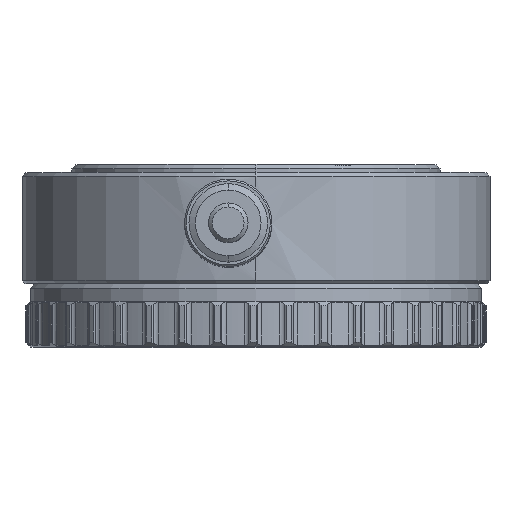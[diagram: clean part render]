
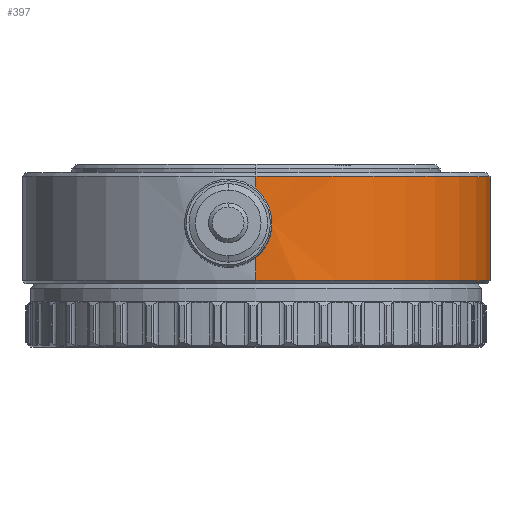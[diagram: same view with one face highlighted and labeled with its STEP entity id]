
A CAD part, top view. The second image highlights one B-rep face of the part: STEP entity #397.
In plain terms, the highlighted cylindrical face has radius 29.5 mm (diameter 59 mm), a partial arc.
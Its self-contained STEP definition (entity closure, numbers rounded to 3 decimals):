
#397=ADVANCED_FACE('',(#1130),#1131,.T.);
#1130=FACE_OUTER_BOUND('',#1899,.T.);
#1131=CYLINDRICAL_SURFACE('',#1900,29.5);
#1899=EDGE_LOOP('',(#4978,#4979,#4980,#4981,#4982,#4983,#4984,#4985));
#1900=AXIS2_PLACEMENT_3D('',#4986,#4987,#4988);
#4978=ORIENTED_EDGE('',*,*,#5189,.T.);
#4979=ORIENTED_EDGE('',*,*,#6139,.T.);
#4980=ORIENTED_EDGE('',*,*,#5199,.T.);
#4981=ORIENTED_EDGE('',*,*,#5643,.F.);
#4982=ORIENTED_EDGE('',*,*,#5197,.T.);
#4983=ORIENTED_EDGE('',*,*,#6155,.T.);
#4984=ORIENTED_EDGE('',*,*,#5191,.T.);
#4985=ORIENTED_EDGE('',*,*,#5644,.T.);
#4986=CARTESIAN_POINT('',(0.0,-0.562,0.0));
#4987=DIRECTION('',(0.0,1.0,0.0));
#4988=DIRECTION('',(0.0,0.0,-1.0));
#5189=EDGE_CURVE('',#6361,#6362,#6363,.T.);
#5191=EDGE_CURVE('',#6366,#6364,#6367,.T.);
#5197=EDGE_CURVE('',#6378,#6376,#6379,.T.);
#5199=EDGE_CURVE('',#6382,#6380,#6383,.T.);
#5643=EDGE_CURVE('',#6378,#6380,#7223,.T.);
#5644=EDGE_CURVE('',#6364,#6361,#7224,.T.);
#6139=EDGE_CURVE('',#6362,#6382,#7945,.T.);
#6155=EDGE_CURVE('',#6376,#6366,#7961,.T.);
#6361=VERTEX_POINT('',#8099);
#6362=VERTEX_POINT('',#8100);
#6363=LINE('',#8101,#8102);
#6364=VERTEX_POINT('',#8103);
#6366=VERTEX_POINT('',#8105);
#6367=LINE('',#8106,#8107);
#6376=VERTEX_POINT('',#8202);
#6378=VERTEX_POINT('',#8246);
#6379=LINE('',#8247,#8248);
#6380=VERTEX_POINT('',#8249);
#6382=VERTEX_POINT('',#8251);
#6383=LINE('',#8252,#8253);
#7223=CIRCLE('',#11086,29.5);
#7224=CIRCLE('',#11087,29.5);
#7945=B_SPLINE_CURVE_WITH_KNOTS('',3,(#13472,#13473,#13474,#13475,#13476,#13477,#13478,#13479,#13480,#13481,#13482,#13483,#13484,#13485,#13486,#13487,#13488,#13489,#13490,#13491,#13492,#13493,#13494,#13495,#13496,#13497,#13498,#13499,#13500,#13501,#13502,#13503,#13504,#13505,#13506,#13507,#13508,#13509,#13510),.UNSPECIFIED.,.F.,.F.,(4,2,2,2,2,2,2,2,2,3,2,2,2,2,2,2,2,2,4),(-6.8,-6.035,-5.28,-4.525,-3.77,-3.014,-2.261,-1.507,-0.754,0.0,0.754,1.507,2.261,3.014,3.77,4.525,5.28,6.035,6.8),.UNSPECIFIED.);
#7961=B_SPLINE_CURVE_WITH_KNOTS('',3,(#13526,#13527,#13528,#13529,#13530,#13531,#13532,#13533,#13534,#13535,#13536,#13537,#13538,#13539,#13540,#13541,#13542,#13543,#13544,#13545,#13546,#13547,#13548,#13549,#13550,#13551,#13552,#13553,#13554,#13555,#13556,#13557,#13558,#13559,#13560,#13561,#13562,#13563,#13564,#13565,#13566,#13567,#13568),.UNSPECIFIED.,.F.,.F.,(4,2,2,2,2,2,2,2,2,2,3,2,2,2,2,2,2,2,2,2,4),(-10.409,-9.354,-8.298,-7.261,-6.223,-5.186,-4.149,-3.112,-2.074,-1.037,0.0,1.037,2.074,3.112,4.149,5.186,6.223,7.261,8.298,9.354,10.409),.UNSPECIFIED.);
#8099=CARTESIAN_POINT('',(0.0,-7.125,-29.5));
#8100=CARTESIAN_POINT('',(0.,-1.936,-29.5));
#8101=CARTESIAN_POINT('',(0.,-0.562,-29.5));
#8102=VECTOR('',#13728,1.0);
#8103=CARTESIAN_POINT('',(0.,-7.125,29.5));
#8105=CARTESIAN_POINT('',(0.,-4.243,29.5));
#8106=CARTESIAN_POINT('',(0.,-0.562,29.5));
#8107=VECTOR('',#13732,1.0);
#8202=CARTESIAN_POINT('',(0.,4.243,29.5));
#8246=CARTESIAN_POINT('',(0.,6.,29.5));
#8247=CARTESIAN_POINT('',(0.,-0.562,29.5));
#8248=VECTOR('',#13733,1.0);
#8249=CARTESIAN_POINT('',(0.0,6.,-29.5));
#8251=CARTESIAN_POINT('',(0.,1.936,-29.5));
#8252=CARTESIAN_POINT('',(0.,-0.562,-29.5));
#8253=VECTOR('',#13737,1.0);
#11086=AXIS2_PLACEMENT_3D('',#14252,#14253,#14254);
#11087=AXIS2_PLACEMENT_3D('',#14255,#14256,#14257);
#13472=CARTESIAN_POINT('',(-4.274,-3.924,-29.189));
#13473=CARTESIAN_POINT('',(-4.015,-3.976,-29.227));
#13474=CARTESIAN_POINT('',(-3.753,-4.,-29.261));
#13475=CARTESIAN_POINT('',(-3.25,-4.,-29.322));
#13476=CARTESIAN_POINT('',(-2.991,-3.976,-29.349));
#13477=CARTESIAN_POINT('',(-2.475,-3.875,-29.397));
#13478=CARTESIAN_POINT('',(-2.219,-3.799,-29.417));
#13479=CARTESIAN_POINT('',(-1.726,-3.595,-29.451));
#13480=CARTESIAN_POINT('',(-1.489,-3.468,-29.463));
#13481=CARTESIAN_POINT('',(-1.051,-3.174,-29.482));
#13482=CARTESIAN_POINT('',(-0.85,-3.007,-29.488));
#13483=CARTESIAN_POINT('',(-0.494,-2.651,-29.496));
#13484=CARTESIAN_POINT('',(-0.328,-2.451,-29.499));
#13485=CARTESIAN_POINT('',(-0.034,-2.014,-29.5));
#13486=CARTESIAN_POINT('',(0.093,-1.778,-29.5));
#13487=CARTESIAN_POINT('',(0.297,-1.285,-29.499));
#13488=CARTESIAN_POINT('',(0.375,-1.028,-29.498));
#13489=CARTESIAN_POINT('',(0.476,-0.511,-29.496));
#13490=CARTESIAN_POINT('',(0.5,-0.251,-29.496));
#13491=CARTESIAN_POINT('',(0.5,0.,-29.496));
#13492=CARTESIAN_POINT('',(0.5,0.251,-29.496));
#13493=CARTESIAN_POINT('',(0.476,0.511,-29.496));
#13494=CARTESIAN_POINT('',(0.375,1.028,-29.498));
#13495=CARTESIAN_POINT('',(0.297,1.285,-29.499));
#13496=CARTESIAN_POINT('',(0.093,1.778,-29.5));
#13497=CARTESIAN_POINT('',(-0.034,2.014,-29.5));
#13498=CARTESIAN_POINT('',(-0.328,2.451,-29.499));
#13499=CARTESIAN_POINT('',(-0.494,2.651,-29.496));
#13500=CARTESIAN_POINT('',(-0.85,3.007,-29.488));
#13501=CARTESIAN_POINT('',(-1.051,3.174,-29.482));
#13502=CARTESIAN_POINT('',(-1.489,3.468,-29.463));
#13503=CARTESIAN_POINT('',(-1.726,3.595,-29.451));
#13504=CARTESIAN_POINT('',(-2.219,3.799,-29.417));
#13505=CARTESIAN_POINT('',(-2.475,3.875,-29.397));
#13506=CARTESIAN_POINT('',(-2.991,3.976,-29.349));
#13507=CARTESIAN_POINT('',(-3.25,4.,-29.322));
#13508=CARTESIAN_POINT('',(-3.753,4.,-29.261));
#13509=CARTESIAN_POINT('',(-4.015,3.976,-29.227));
#13510=CARTESIAN_POINT('',(-4.274,3.924,-29.189));
#13526=CARTESIAN_POINT('',(-5.619,5.075,28.96));
#13527=CARTESIAN_POINT('',(-5.279,5.217,29.026));
#13528=CARTESIAN_POINT('',(-4.925,5.325,29.088));
#13529=CARTESIAN_POINT('',(-4.21,5.466,29.2));
#13530=CARTESIAN_POINT('',(-3.849,5.5,29.25));
#13531=CARTESIAN_POINT('',(-3.157,5.5,29.333));
#13532=CARTESIAN_POINT('',(-2.801,5.467,29.369));
#13533=CARTESIAN_POINT('',(-2.092,5.329,29.428));
#13534=CARTESIAN_POINT('',(-1.739,5.223,29.451));
#13535=CARTESIAN_POINT('',(-1.062,4.944,29.483));
#13536=CARTESIAN_POINT('',(-0.737,4.769,29.492));
#13537=CARTESIAN_POINT('',(-0.135,4.366,29.501));
#13538=CARTESIAN_POINT('',(0.141,4.136,29.501));
#13539=CARTESIAN_POINT('',(0.631,3.648,29.494));
#13540=CARTESIAN_POINT('',(0.86,3.372,29.488));
#13541=CARTESIAN_POINT('',(1.265,2.771,29.474));
#13542=CARTESIAN_POINT('',(1.44,2.446,29.465));
#13543=CARTESIAN_POINT('',(1.721,1.768,29.45));
#13544=CARTESIAN_POINT('',(1.827,1.414,29.443));
#13545=CARTESIAN_POINT('',(1.967,0.703,29.434));
#13546=CARTESIAN_POINT('',(2.,0.346,29.432));
#13547=CARTESIAN_POINT('',(2.,0.,29.432));
#13548=CARTESIAN_POINT('',(2.,-0.346,29.432));
#13549=CARTESIAN_POINT('',(1.967,-0.703,29.434));
#13550=CARTESIAN_POINT('',(1.827,-1.414,29.443));
#13551=CARTESIAN_POINT('',(1.721,-1.768,29.45));
#13552=CARTESIAN_POINT('',(1.44,-2.446,29.465));
#13553=CARTESIAN_POINT('',(1.265,-2.771,29.474));
#13554=CARTESIAN_POINT('',(0.86,-3.372,29.488));
#13555=CARTESIAN_POINT('',(0.631,-3.648,29.494));
#13556=CARTESIAN_POINT('',(0.141,-4.136,29.501));
#13557=CARTESIAN_POINT('',(-0.135,-4.366,29.501));
#13558=CARTESIAN_POINT('',(-0.737,-4.769,29.492));
#13559=CARTESIAN_POINT('',(-1.062,-4.944,29.483));
#13560=CARTESIAN_POINT('',(-1.739,-5.223,29.451));
#13561=CARTESIAN_POINT('',(-2.092,-5.329,29.428));
#13562=CARTESIAN_POINT('',(-2.801,-5.467,29.369));
#13563=CARTESIAN_POINT('',(-3.157,-5.5,29.333));
#13564=CARTESIAN_POINT('',(-3.849,-5.5,29.25));
#13565=CARTESIAN_POINT('',(-4.21,-5.466,29.2));
#13566=CARTESIAN_POINT('',(-4.925,-5.325,29.088));
#13567=CARTESIAN_POINT('',(-5.279,-5.217,29.026));
#13568=CARTESIAN_POINT('',(-5.619,-5.075,28.96));
#13728=DIRECTION('',(0.0,1.0,0.0));
#13732=DIRECTION('',(-0.0,-1.0,-0.0));
#13733=DIRECTION('',(-0.0,-1.0,-0.0));
#13737=DIRECTION('',(0.0,1.0,0.0));
#14252=CARTESIAN_POINT('',(0.0,6.,0.0));
#14253=DIRECTION('',(0.0,1.0,0.0));
#14254=DIRECTION('',(0.0,0.0,-1.0));
#14255=CARTESIAN_POINT('',(0.0,-7.125,0.0));
#14256=DIRECTION('',(0.0,1.0,0.0));
#14257=DIRECTION('',(0.0,0.0,-1.0));
